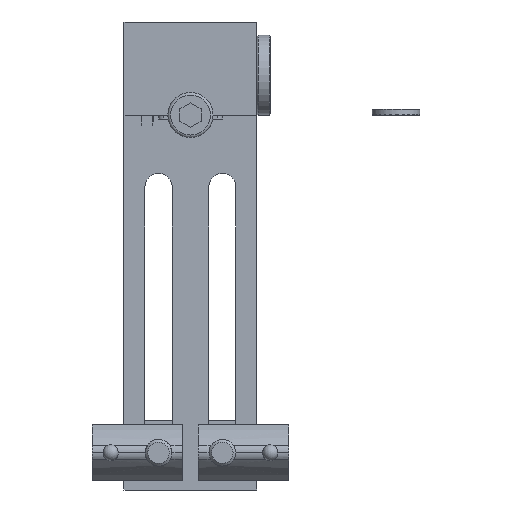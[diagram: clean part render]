
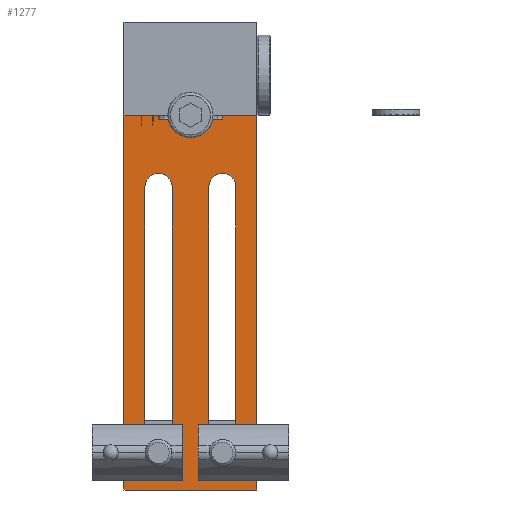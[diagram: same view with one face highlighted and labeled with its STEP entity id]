
A CAD part, left-side view. The second image highlights one B-rep face of the part: STEP entity #1277.
In plain terms, the highlighted planar face has unit normal (-1, 0, 0).
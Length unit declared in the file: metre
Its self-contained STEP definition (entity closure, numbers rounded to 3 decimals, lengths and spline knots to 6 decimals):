
#1277 = ADVANCED_FACE( '', ( #1989, #1990, #1991 ), #1992, .T. );
#1989 = FACE_OUTER_BOUND( '', #2650, .T. );
#1990 = FACE_BOUND( '', #2651, .T. );
#1991 = FACE_BOUND( '', #2652, .T. );
#1992 = PLANE( '', #2653 );
#2650 = EDGE_LOOP( '', ( #3494, #3495, #3496, #3497 ) );
#2651 = EDGE_LOOP( '', ( #3498, #3499, #3500, #3501 ) );
#2652 = EDGE_LOOP( '', ( #3502, #3503, #3504, #3505 ) );
#2653 = AXIS2_PLACEMENT_3D( '', #3506, #3507, #3508 );
#3494 = ORIENTED_EDGE( '', *, *, #5784, .T. );
#3495 = ORIENTED_EDGE( '', *, *, #5793, .T. );
#3496 = ORIENTED_EDGE( '', *, *, #5794, .F. );
#3497 = ORIENTED_EDGE( '', *, *, #5795, .F. );
#3498 = ORIENTED_EDGE( '', *, *, #5796, .T. );
#3499 = ORIENTED_EDGE( '', *, *, #5797, .T. );
#3500 = ORIENTED_EDGE( '', *, *, #5798, .T. );
#3501 = ORIENTED_EDGE( '', *, *, #5799, .T. );
#3502 = ORIENTED_EDGE( '', *, *, #5800, .T. );
#3503 = ORIENTED_EDGE( '', *, *, #5801, .T. );
#3504 = ORIENTED_EDGE( '', *, *, #5802, .T. );
#3505 = ORIENTED_EDGE( '', *, *, #5803, .T. );
#3506 = CARTESIAN_POINT( '', ( -0.0075, -0.085925, -0.0705 ) );
#3507 = DIRECTION( '', ( -1., 0., 0. ) );
#3508 = DIRECTION( '', ( 0., 0., 1. ) );
#5784 = EDGE_CURVE( '', #6608, #6605, #6609, .T. );
#5793 = EDGE_CURVE( '', #6605, #6625, #6626, .T. );
#5794 = EDGE_CURVE( '', #6627, #6625, #6628, .T. );
#5795 = EDGE_CURVE( '', #6608, #6627, #6629, .T. );
#5796 = EDGE_CURVE( '', #6630, #6631, #6632, .F. );
#5797 = EDGE_CURVE( '', #6631, #6633, #6634, .T. );
#5798 = EDGE_CURVE( '', #6633, #6635, #6636, .F. );
#5799 = EDGE_CURVE( '', #6635, #6630, #6637, .T. );
#5800 = EDGE_CURVE( '', #6638, #6639, #6640, .F. );
#5801 = EDGE_CURVE( '', #6639, #6641, #6642, .T. );
#5802 = EDGE_CURVE( '', #6641, #6643, #6644, .F. );
#5803 = EDGE_CURVE( '', #6643, #6638, #6645, .T. );
#6605 = VERTEX_POINT( '', #7967 );
#6608 = VERTEX_POINT( '', #7971 );
#6609 = LINE( '', #7972, #7973 );
#6625 = VERTEX_POINT( '', #7993 );
#6626 = LINE( '', #7994, #7995 );
#6627 = VERTEX_POINT( '', #7996 );
#6628 = LINE( '', #7997, #7998 );
#6629 = LINE( '', #7999, #8000 );
#6630 = VERTEX_POINT( '', #8001 );
#6631 = VERTEX_POINT( '', #8002 );
#6632 = CIRCLE( '', #8003, 0.00255 );
#6633 = VERTEX_POINT( '', #8004 );
#6634 = LINE( '', #8005, #8006 );
#6635 = VERTEX_POINT( '', #8007 );
#6636 = CIRCLE( '', #8008, 0.00255 );
#6637 = LINE( '', #8009, #8010 );
#6638 = VERTEX_POINT( '', #8011 );
#6639 = VERTEX_POINT( '', #8012 );
#6640 = CIRCLE( '', #8013, 0.00255 );
#6641 = VERTEX_POINT( '', #8014 );
#6642 = LINE( '', #8015, #8016 );
#6643 = VERTEX_POINT( '', #8017 );
#6644 = CIRCLE( '', #8018, 0.00255 );
#6645 = LINE( '', #8019, #8020 );
#7967 = CARTESIAN_POINT( '', ( -0.0075, -0.0125, 0. ) );
#7971 = CARTESIAN_POINT( '', ( -0.0075, -0.0125, -0.0705 ) );
#7972 = CARTESIAN_POINT( '', ( -0.0075, -0.0125, -0.0705 ) );
#7973 = VECTOR( '', #9735, 1. );
#7993 = CARTESIAN_POINT( '', ( -0.0075, 0.0125, 0. ) );
#7994 = CARTESIAN_POINT( '', ( -0.0075, -0.085925, 0. ) );
#7995 = VECTOR( '', #9752, 1. );
#7996 = CARTESIAN_POINT( '', ( -0.0075, 0.0125, -0.0705 ) );
#7997 = CARTESIAN_POINT( '', ( -0.0075, 0.0125, -0.0705 ) );
#7998 = VECTOR( '', #9753, 1. );
#7999 = CARTESIAN_POINT( '', ( -0.0075, -0.085925, -0.0705 ) );
#8000 = VECTOR( '', #9754, 1. );
#8001 = CARTESIAN_POINT( '', ( -0.0075, 0.00855, -0.0135 ) );
#8002 = CARTESIAN_POINT( '', ( -0.0075, 0.00345, -0.0135 ) );
#8003 = AXIS2_PLACEMENT_3D( '', #9755, #9756, #9757 );
#8004 = CARTESIAN_POINT( '', ( -0.0075, 0.00345, -0.0635 ) );
#8005 = CARTESIAN_POINT( '', ( -0.0075, 0.00345, -0.0135 ) );
#8006 = VECTOR( '', #9758, 1. );
#8007 = CARTESIAN_POINT( '', ( -0.0075, 0.00855, -0.0635 ) );
#8008 = AXIS2_PLACEMENT_3D( '', #9759, #9760, #9761 );
#8009 = CARTESIAN_POINT( '', ( -0.0075, 0.00855, -0.0635 ) );
#8010 = VECTOR( '', #9762, 1. );
#8011 = CARTESIAN_POINT( '', ( -0.0075, -0.00345, -0.0135 ) );
#8012 = CARTESIAN_POINT( '', ( -0.0075, -0.00855, -0.0135 ) );
#8013 = AXIS2_PLACEMENT_3D( '', #9763, #9764, #9765 );
#8014 = CARTESIAN_POINT( '', ( -0.0075, -0.00855, -0.0635 ) );
#8015 = CARTESIAN_POINT( '', ( -0.0075, -0.00855, -0.0135 ) );
#8016 = VECTOR( '', #9766, 1. );
#8017 = CARTESIAN_POINT( '', ( -0.0075, -0.00345, -0.0635 ) );
#8018 = AXIS2_PLACEMENT_3D( '', #9767, #9768, #9769 );
#8019 = CARTESIAN_POINT( '', ( -0.0075, -0.00345, -0.0635 ) );
#8020 = VECTOR( '', #9770, 1. );
#9735 = DIRECTION( '', ( 0., 0., 1. ) );
#9752 = DIRECTION( '', ( 0., 1., 0. ) );
#9753 = DIRECTION( '', ( 0., 0., 1. ) );
#9754 = DIRECTION( '', ( 0., 1., 0. ) );
#9755 = CARTESIAN_POINT( '', ( -0.0075, 0.006, -0.0135 ) );
#9756 = DIRECTION( '', ( -1., 0., 0. ) );
#9757 = DIRECTION( '', ( 0., 0., 1. ) );
#9758 = DIRECTION( '', ( 0., 0., -1. ) );
#9759 = CARTESIAN_POINT( '', ( -0.0075, 0.006, -0.0635 ) );
#9760 = DIRECTION( '', ( -1., 0., 0. ) );
#9761 = DIRECTION( '', ( 0., 0., 1. ) );
#9762 = DIRECTION( '', ( 0., 0., 1. ) );
#9763 = CARTESIAN_POINT( '', ( -0.0075, -0.006, -0.0135 ) );
#9764 = DIRECTION( '', ( -1., 0., 0. ) );
#9765 = DIRECTION( '', ( 0., 0., 1. ) );
#9766 = DIRECTION( '', ( 0., 0., -1. ) );
#9767 = CARTESIAN_POINT( '', ( -0.0075, -0.006, -0.0635 ) );
#9768 = DIRECTION( '', ( -1., 0., 0. ) );
#9769 = DIRECTION( '', ( 0., 0., 1. ) );
#9770 = DIRECTION( '', ( 0., 0., 1. ) );
